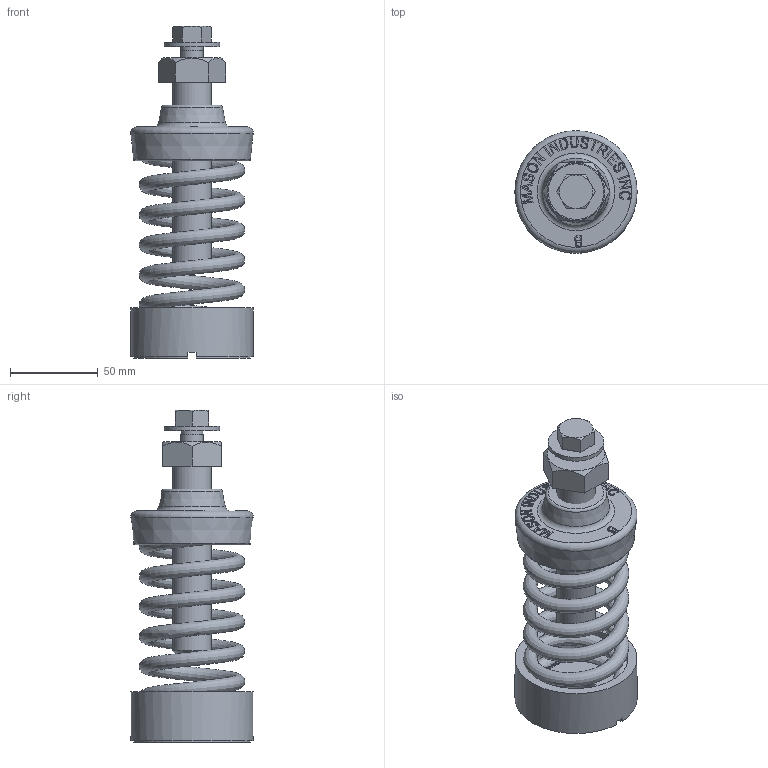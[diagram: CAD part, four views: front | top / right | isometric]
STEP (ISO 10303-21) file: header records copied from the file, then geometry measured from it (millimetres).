
FILE_DESCRIPTION(/* description */ (''),/* implementation_level */ '2;1');
FILE_NAME(/* name */ '\\Mleuckthor2\cad-proe_solids\WEBSITE FILES 05.22.13\STEP\SLFB\SLF-B2-680.stp',/* time_stamp */ '2016-02-28T14:07:19-05:00',/* author */ ('rramoutar'),/* organization */ ('Mason Industries Inc.'),/* preprocessor_version */ 'ST-DEVELOPER v15.6',/* originating_system */ 'Autodesk Inventor 2015',/* authorisation */ '');
FILE_SCHEMA (('CONFIG_CONTROL_DESIGN'));
Length unit declared in the file: inch
Products named in the file (1): SLF-B2-680
Bounding box: 69.85 x 69.85 x 189.59 mm (x, y, z)
Volume: 209425.4 mm3; surface area: 89780.7 mm2
Topology: 7 solids, 8 shells, 436 faces, 1123 edges, 742 vertices
Faces by surface type: plane 287, bspline 105, cylinder 24, cone 14, torus 6
Full cylindrical faces by diameter (mm): 10.592 x1, 12.7 x1, 13.487 x1, 19.05 x1, 19.177 x1, 22.225 x2, 29.369 x2, 31.75 x1, 59.531 x1, 60.325 x2, 69.85 x1
Entity records: 16199 total; most frequent: CARTESIAN_POINT 5921, ORIENTED_EDGE 2176, DIRECTION 1602, EDGE_CURVE 1088, LINE 774, VECTOR 774, VERTEX_POINT 735, EDGE_LOOP 513
